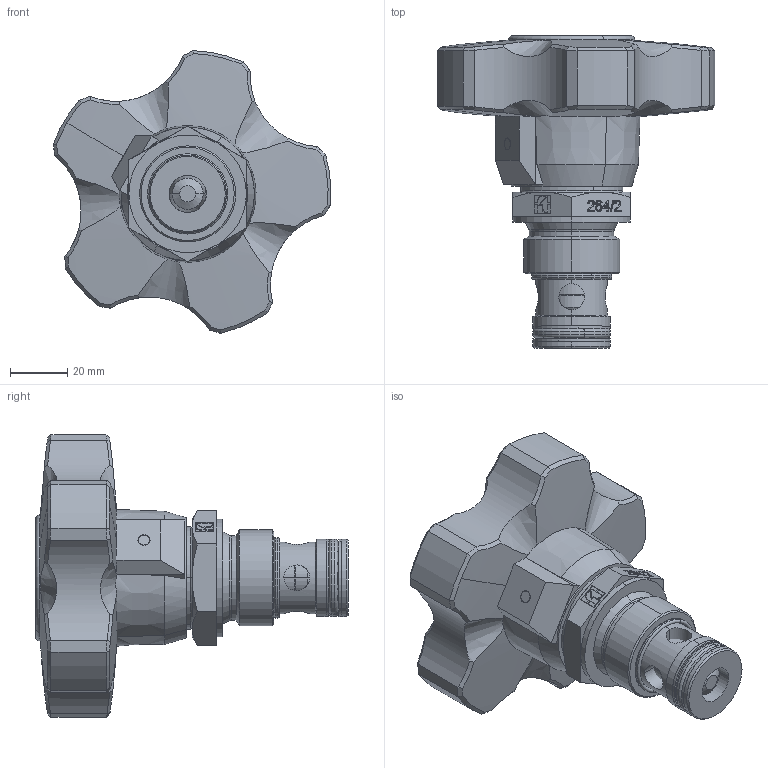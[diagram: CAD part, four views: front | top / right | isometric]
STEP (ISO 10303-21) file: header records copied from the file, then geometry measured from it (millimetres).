
FILE_DESCRIPTION (( 'STEP AP214' ), '1' );
FILE_NAME ('264-2-34volantino.STEP', '2014-11-11T21:07:13', ( '' ), ( '' ), 'SwSTEP 2.0', 'SolidWorks 2014', '' );
FILE_SCHEMA (( 'AUTOMOTIVE_DESIGN' ));
Length unit declared in the file: millimetre
Products named in the file (1): 264-2-34volantino
Bounding box: 96.9 x 109.1 x 98.63 mm (x, y, z)
Volume: 221862.3 mm3; surface area: 58438.1 mm2
Topology: 10 solids, 10 shells, 700 faces, 1775 edges, 1139 vertices
Faces by surface type: plane 340, cylinder 133, cone 107, bspline 82, torus 30, sphere 8
Entity records: 33691 total; most frequent: CARTESIAN_POINT 9610, ORIENTED_EDGE 3546, DIRECTION 3076, EDGE_CURVE 1773, VERTEX_POINT 1139, AXIS2_PLACEMENT_3D 1063, VECTOR 950, LINE 950
